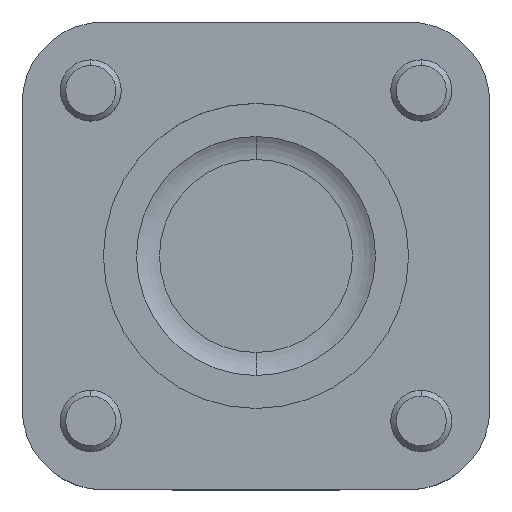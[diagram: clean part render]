
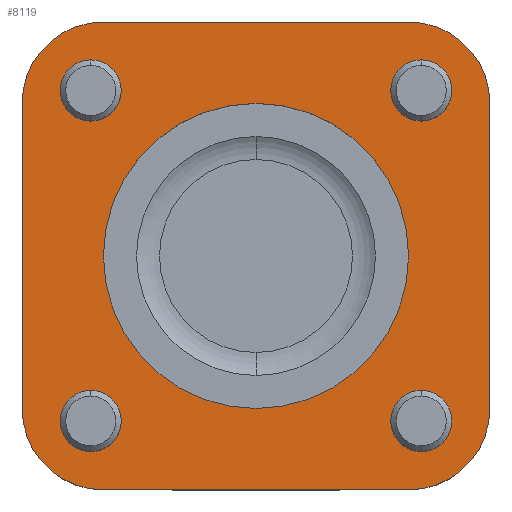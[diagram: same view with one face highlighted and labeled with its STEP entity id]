
A CAD part, top view. The second image highlights one B-rep face of the part: STEP entity #8119.
In plain terms, the highlighted planar face has unit normal (0, 0, 1).
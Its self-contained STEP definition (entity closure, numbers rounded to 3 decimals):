
#1633=DIRECTION('',(-1.,0.,0.));
#1634=VECTOR('',#1633,30.);
#1635=CARTESIAN_POINT('',(15.,23.,9.));
#1636=LINE('',#1635,#1634);
#1637=CARTESIAN_POINT('',(15.,15.,9.));
#1638=DIRECTION('',(0.,0.,1.));
#1639=DIRECTION('',(1.,0.,0.));
#1640=AXIS2_PLACEMENT_3D('',#1637,#1638,#1639);
#1642=DIRECTION('',(0.,1.,0.));
#1643=VECTOR('',#1642,30.);
#1644=CARTESIAN_POINT('',(23.,-15.,9.));
#1645=LINE('',#1644,#1643);
#1646=CARTESIAN_POINT('',(15.,-15.,9.));
#1647=DIRECTION('',(0.,0.,1.));
#1648=DIRECTION('',(0.,-1.,0.));
#1649=AXIS2_PLACEMENT_3D('',#1646,#1647,#1648);
#1651=DIRECTION('',(1.,0.,0.));
#1652=VECTOR('',#1651,30.);
#1653=CARTESIAN_POINT('',(-15.,-23.,9.));
#1654=LINE('',#1653,#1652);
#1655=CARTESIAN_POINT('',(-15.,-15.,9.));
#1656=DIRECTION('',(0.,0.,1.));
#1657=DIRECTION('',(-1.,0.,0.));
#1658=AXIS2_PLACEMENT_3D('',#1655,#1656,#1657);
#1660=DIRECTION('',(0.,-1.,0.));
#1661=VECTOR('',#1660,30.);
#1662=CARTESIAN_POINT('',(-23.,15.,9.));
#1663=LINE('',#1662,#1661);
#1664=CARTESIAN_POINT('',(-15.,15.,9.));
#1665=DIRECTION('',(0.,0.,1.));
#1666=DIRECTION('',(0.,1.,0.));
#1667=AXIS2_PLACEMENT_3D('',#1664,#1665,#1666);
#1669=CARTESIAN_POINT('',(0.,0.,9.));
#1670=DIRECTION('',(0.,0.,1.));
#1671=DIRECTION('',(1.,0.,0.));
#1672=AXIS2_PLACEMENT_3D('',#1669,#1670,#1671);
#1674=CARTESIAN_POINT('',(0.,0.,9.));
#1675=DIRECTION('',(0.,0.,1.));
#1676=DIRECTION('',(-1.,0.,0.));
#1677=AXIS2_PLACEMENT_3D('',#1674,#1675,#1676);
#1679=CARTESIAN_POINT('',(-16.25,16.25,9.));
#1680=DIRECTION('',(0.,0.,1.));
#1681=DIRECTION('',(0.,1.,0.));
#1682=AXIS2_PLACEMENT_3D('',#1679,#1680,#1681);
#1684=CARTESIAN_POINT('',(-16.25,16.25,9.));
#1685=DIRECTION('',(0.,0.,1.));
#1686=DIRECTION('',(0.,-1.,0.));
#1687=AXIS2_PLACEMENT_3D('',#1684,#1685,#1686);
#1689=CARTESIAN_POINT('',(-16.25,-16.25,9.));
#1690=DIRECTION('',(0.,0.,1.));
#1691=DIRECTION('',(0.,1.,0.));
#1692=AXIS2_PLACEMENT_3D('',#1689,#1690,#1691);
#1694=CARTESIAN_POINT('',(-16.25,-16.25,9.));
#1695=DIRECTION('',(0.,0.,1.));
#1696=DIRECTION('',(0.,-1.,0.));
#1697=AXIS2_PLACEMENT_3D('',#1694,#1695,#1696);
#1699=CARTESIAN_POINT('',(16.25,-16.25,9.));
#1700=DIRECTION('',(0.,0.,1.));
#1701=DIRECTION('',(0.,1.,0.));
#1702=AXIS2_PLACEMENT_3D('',#1699,#1700,#1701);
#1704=CARTESIAN_POINT('',(16.25,-16.25,9.));
#1705=DIRECTION('',(0.,0.,1.));
#1706=DIRECTION('',(0.,-1.,0.));
#1707=AXIS2_PLACEMENT_3D('',#1704,#1705,#1706);
#1709=CARTESIAN_POINT('',(16.25,16.25,9.));
#1710=DIRECTION('',(0.,0.,1.));
#1711=DIRECTION('',(0.,1.,0.));
#1712=AXIS2_PLACEMENT_3D('',#1709,#1710,#1711);
#1714=CARTESIAN_POINT('',(16.25,16.25,9.));
#1715=DIRECTION('',(0.,0.,1.));
#1716=DIRECTION('',(0.,-1.,0.));
#1717=AXIS2_PLACEMENT_3D('',#1714,#1715,#1716);
#5320=CARTESIAN_POINT('',(15.,23.,9.));
#5321=CARTESIAN_POINT('',(-15.,23.,9.));
#5322=VERTEX_POINT('',#5320);
#5323=VERTEX_POINT('',#5321);
#5324=CARTESIAN_POINT('',(-23.,15.,9.));
#5325=VERTEX_POINT('',#5324);
#5326=CARTESIAN_POINT('',(-23.,-15.,9.));
#5327=VERTEX_POINT('',#5326);
#5328=CARTESIAN_POINT('',(-15.,-23.,9.));
#5329=VERTEX_POINT('',#5328);
#5330=CARTESIAN_POINT('',(15.,-23.,9.));
#5331=VERTEX_POINT('',#5330);
#5332=CARTESIAN_POINT('',(23.,-15.,9.));
#5333=VERTEX_POINT('',#5332);
#5334=CARTESIAN_POINT('',(23.,15.,9.));
#5335=VERTEX_POINT('',#5334);
#5436=CARTESIAN_POINT('',(15.,0.,9.));
#5437=CARTESIAN_POINT('',(-15.,0.,9.));
#5438=VERTEX_POINT('',#5436);
#5439=VERTEX_POINT('',#5437);
#5472=CARTESIAN_POINT('',(-16.25,19.25,9.));
#5473=CARTESIAN_POINT('',(-16.25,13.25,9.));
#5474=VERTEX_POINT('',#5472);
#5475=VERTEX_POINT('',#5473);
#5476=CARTESIAN_POINT('',(-16.25,-13.25,9.));
#5477=CARTESIAN_POINT('',(-16.25,-19.25,9.));
#5478=VERTEX_POINT('',#5476);
#5479=VERTEX_POINT('',#5477);
#5480=CARTESIAN_POINT('',(16.25,-13.25,9.));
#5481=CARTESIAN_POINT('',(16.25,-19.25,9.));
#5482=VERTEX_POINT('',#5480);
#5483=VERTEX_POINT('',#5481);
#5484=CARTESIAN_POINT('',(16.25,19.25,9.));
#5485=CARTESIAN_POINT('',(16.25,13.25,9.));
#5486=VERTEX_POINT('',#5484);
#5487=VERTEX_POINT('',#5485);
#8073=CARTESIAN_POINT('',(0.,0.,9.));
#8074=DIRECTION('',(0.,0.,1.));
#8075=DIRECTION('',(1.,0.,0.));
#8076=AXIS2_PLACEMENT_3D('',#8073,#8074,#8075);
#8077=PLANE('',#8076);
#8078=ORIENTED_EDGE('',*,*,#7822,.F.);
#8080=ORIENTED_EDGE('',*,*,#8079,.F.);
#8081=ORIENTED_EDGE('',*,*,#7981,.F.);
#8082=ORIENTED_EDGE('',*,*,#8001,.F.);
#8083=ORIENTED_EDGE('',*,*,#8015,.F.);
#8084=ORIENTED_EDGE('',*,*,#8035,.F.);
#8085=ORIENTED_EDGE('',*,*,#8049,.F.);
#8086=ORIENTED_EDGE('',*,*,#8067,.F.);
#8087=EDGE_LOOP('',(#8078,#8080,#8081,#8082,#8083,#8084,#8085,#8086));
#8088=FACE_OUTER_BOUND('',#8087,.F.);
#8090=ORIENTED_EDGE('',*,*,#8089,.T.);
#8092=ORIENTED_EDGE('',*,*,#8091,.T.);
#8093=EDGE_LOOP('',(#8090,#8092));
#8094=FACE_BOUND('',#8093,.F.);
#8096=ORIENTED_EDGE('',*,*,#8095,.T.);
#8098=ORIENTED_EDGE('',*,*,#8097,.T.);
#8099=EDGE_LOOP('',(#8096,#8098));
#8100=FACE_BOUND('',#8099,.F.);
#8102=ORIENTED_EDGE('',*,*,#8101,.T.);
#8104=ORIENTED_EDGE('',*,*,#8103,.T.);
#8105=EDGE_LOOP('',(#8102,#8104));
#8106=FACE_BOUND('',#8105,.F.);
#8108=ORIENTED_EDGE('',*,*,#8107,.T.);
#8110=ORIENTED_EDGE('',*,*,#8109,.T.);
#8111=EDGE_LOOP('',(#8108,#8110));
#8112=FACE_BOUND('',#8111,.F.);
#8114=ORIENTED_EDGE('',*,*,#8113,.T.);
#8116=ORIENTED_EDGE('',*,*,#8115,.T.);
#8117=EDGE_LOOP('',(#8114,#8116));
#8118=FACE_BOUND('',#8117,.F.);
#8119=ADVANCED_FACE('',(#8088,#8094,#8100,#8106,#8112,#8118),#8077,.T.);
#1641=CIRCLE('',#1640,8.);
#1650=CIRCLE('',#1649,8.);
#1659=CIRCLE('',#1658,8.);
#1668=CIRCLE('',#1667,8.);
#1673=CIRCLE('',#1672,15.);
#1678=CIRCLE('',#1677,15.);
#1683=CIRCLE('',#1682,3.);
#1688=CIRCLE('',#1687,3.);
#1693=CIRCLE('',#1692,3.);
#1698=CIRCLE('',#1697,3.);
#1703=CIRCLE('',#1702,3.);
#1708=CIRCLE('',#1707,3.);
#1713=CIRCLE('',#1712,3.);
#1718=CIRCLE('',#1717,3.);
#7822=EDGE_CURVE('',#5322,#5323,#1636,.T.);
#7981=EDGE_CURVE('',#5333,#5335,#1645,.T.);
#8001=EDGE_CURVE('',#5331,#5333,#1650,.T.);
#8015=EDGE_CURVE('',#5329,#5331,#1654,.T.);
#8035=EDGE_CURVE('',#5327,#5329,#1659,.T.);
#8049=EDGE_CURVE('',#5325,#5327,#1663,.T.);
#8067=EDGE_CURVE('',#5323,#5325,#1668,.T.);
#8079=EDGE_CURVE('',#5335,#5322,#1641,.T.);
#8089=EDGE_CURVE('',#5438,#5439,#1673,.T.);
#8091=EDGE_CURVE('',#5439,#5438,#1678,.T.);
#8095=EDGE_CURVE('',#5474,#5475,#1683,.T.);
#8097=EDGE_CURVE('',#5475,#5474,#1688,.T.);
#8101=EDGE_CURVE('',#5478,#5479,#1693,.T.);
#8103=EDGE_CURVE('',#5479,#5478,#1698,.T.);
#8107=EDGE_CURVE('',#5482,#5483,#1703,.T.);
#8109=EDGE_CURVE('',#5483,#5482,#1708,.T.);
#8113=EDGE_CURVE('',#5486,#5487,#1713,.T.);
#8115=EDGE_CURVE('',#5487,#5486,#1718,.T.);
